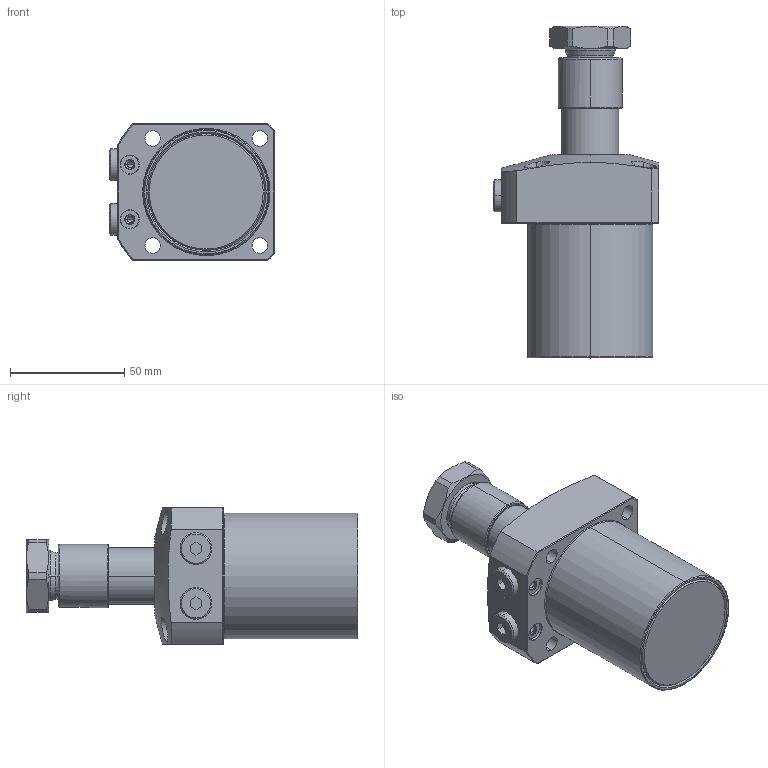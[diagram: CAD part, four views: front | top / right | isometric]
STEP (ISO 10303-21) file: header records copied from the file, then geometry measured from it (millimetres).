
FILE_DESCRIPTION(/* description */ (''),/* implementation_level */ '2;1');
FILE_NAME(/* name */ 'KTRC55-L.stp',/* time_stamp */ '2022-11-17T14:51:56+08:00',/* author */ (''),/* organization */ (''),/* preprocessor_version */ 'ST-DEVELOPER v16.7',/* originating_system */ 'SIEMENS PLM Software NX 12.0',/* authorisation */ '');
FILE_SCHEMA (('AP203_CONFIGURATION_CONTROLLED_3D_DESIGN_OF_MECHANICAL_PARTS_AND_ASSEMBLIES_MIM_LF { 1 0 10303 403 2 1 2}'));
Length unit declared in the file: millimetre
Products named in the file (6): KTRC55-L-04; KTRC55-L-01; KTRC55-L-03; KTRC55-L-05; KTRC55-L-02; LHA0550-CL_step
Assembly tree (6 placements, depth 2):
  LHA0550-CL_step
    KTRC55-L-02
    KTRC55-L-05  x2
    KTRC55-L-03
    KTRC55-L-01
    KTRC55-L-04
Bounding box: 72.5 x 145.5 x 60 mm (x, y, z)
Volume: 280392.3 mm3; surface area: 41857.8 mm2
Topology: 6 solids, 6 shells, 227 faces, 549 edges, 345 vertices
Faces by surface type: cylinder 79, plane 75, cone 51, torus 20, sphere 2
Entity records: 7665 total; most frequent: CARTESIAN_POINT 1919, DIRECTION 1089, ORIENTED_EDGE 1038, EDGE_CURVE 519, AXIS2_PLACEMENT_3D 445, VERTEX_POINT 327, EDGE_LOOP 240, CIRCLE 224
